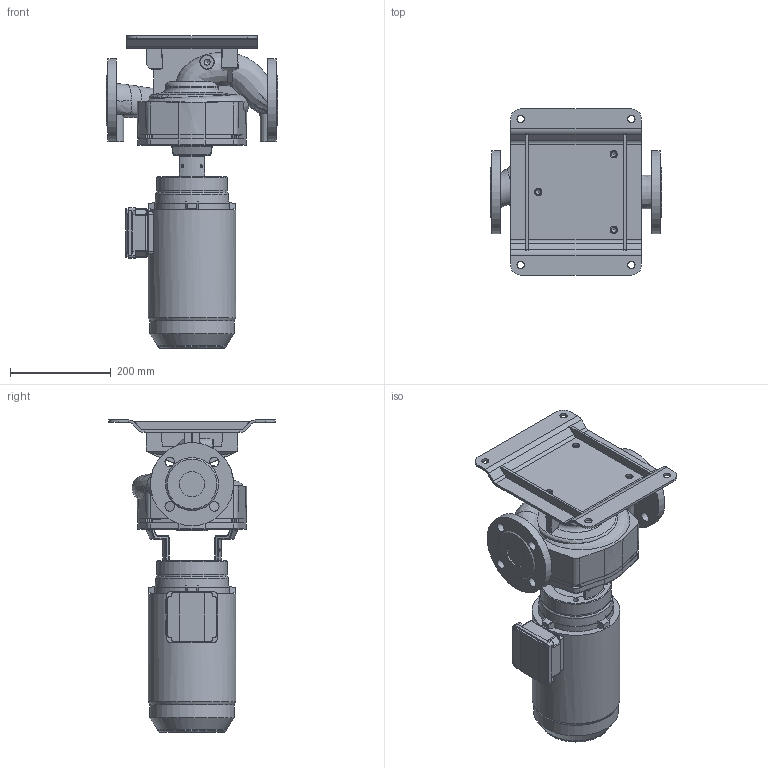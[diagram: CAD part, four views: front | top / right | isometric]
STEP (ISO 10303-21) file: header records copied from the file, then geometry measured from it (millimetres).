
FILE_DESCRIPTION (( 'STEP AP203' ), '1' );
FILE_NAME ('KI50-145_2_2,2kW.STEP', '2024-07-29T10:12:59', ( '' ), ( '' ), 'SwSTEP 2.0', 'SolidWorks 2023', '' );
FILE_SCHEMA (( 'CONFIG_CONTROL_DESIGN' ));
Length unit declared in the file: millimetre
Products named in the file (11): HMA3_90L-4_solid; 230033; 230496; 230400; 230497; 220542; 230031; KI50-145_2_2,2kW; 230034; 220543; 230401
Assembly tree (11 placements, depth 3):
  KI50-145_2_2,2kW
    HMA3_90L-4_solid
    230401
      230400
    230497
      230496
    220543
      220542
    230034
      230031
      230033  x2
Bounding box: 340 x 330.18 x 619.94 mm (x, y, z)
Volume: 14665396.8 mm3; surface area: 990777.4 mm2
Topology: 7 solids, 7 shells, 830 faces, 2154 edges, 1332 vertices
Faces by surface type: plane 311, cylinder 273, bspline 104, torus 69, cone 59, sphere 14
Full cylindrical faces by diameter (mm): 5 x8, 6 x3, 6.8 x4, 7 x8, 10 x4, 10.2 x7, 11.8 x4, 14 x4, 14.5 x7, 19 x8, 50 x2, 95 x1, 136 x1, 140 x2, 147 x1, 151 x1, 165 x2, 168.6 x1, 174.6 x1, 189 x1
Entity records: 39880 total; most frequent: CARTESIAN_POINT 19903, ORIENTED_EDGE 3928, DIRECTION 3797, EDGE_CURVE 1964, AXIS2_PLACEMENT_3D 1463, VERTEX_POINT 1274, EDGE_LOOP 1020, FACE_OUTER_BOUND 897
